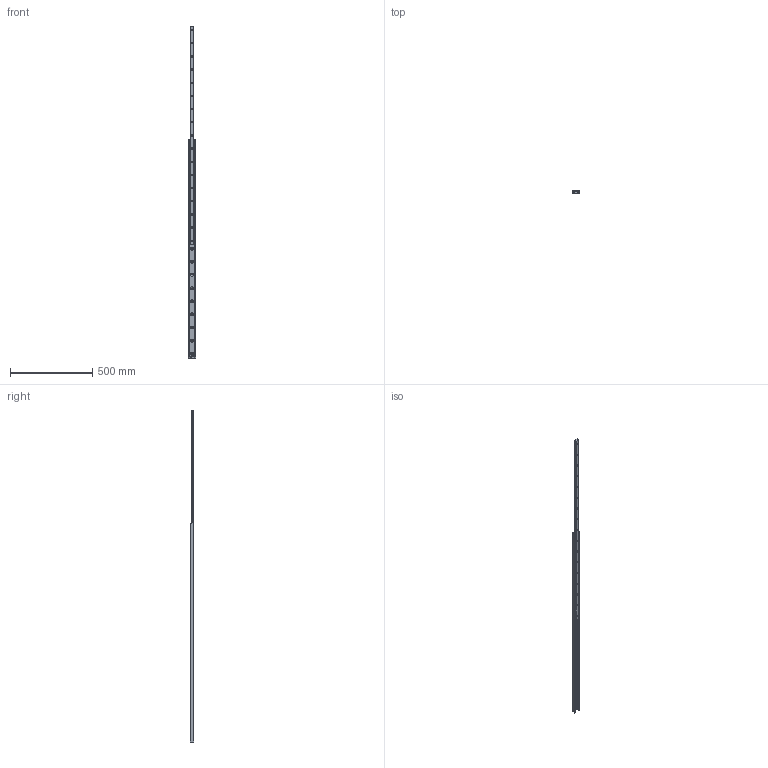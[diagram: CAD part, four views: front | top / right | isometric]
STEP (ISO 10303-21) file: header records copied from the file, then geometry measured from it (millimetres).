
FILE_DESCRIPTION(('STEP AP214'),'1');
FILE_NAME('rail_asn43-1330_01.stp','2017-06-06T10:15:21',('TraceParts'),('TraceParts S.A.'),'Spatial InterOp 3D',' ',' ');
FILE_SCHEMA(('automotive_design'));
Length unit declared in the file: millimetre
Products named in the file (2): rail_asn43-1330_01_1; rail_asn43-1330_01_2
Bounding box: 43 x 22.01 x 2018 mm (x, y, z)
Volume: 809522.5 mm3; surface area: 313194.2 mm2
Topology: 2 solids, 2 shells, 247 faces, 612 edges, 374 vertices
Faces by surface type: cone 102, cylinder 99, plane 46
Entity records: 7496 total; most frequent: DIRECTION 1410, CARTESIAN_POINT 1235, ORIENTED_EDGE 1224, EDGE_CURVE 612, AXIS2_PLACEMENT_3D 549, VERTEX_POINT 374, EDGE_LOOP 320, LINE 312
